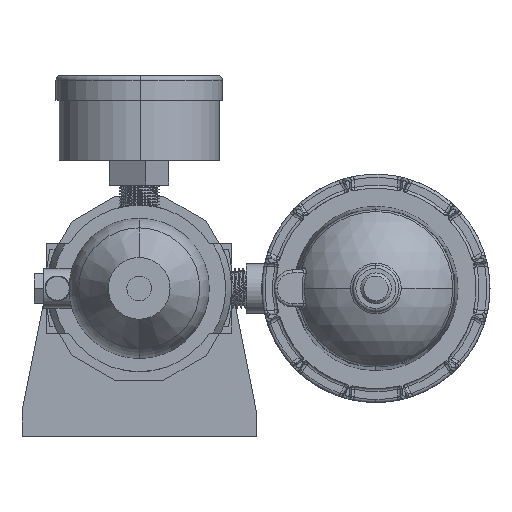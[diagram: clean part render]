
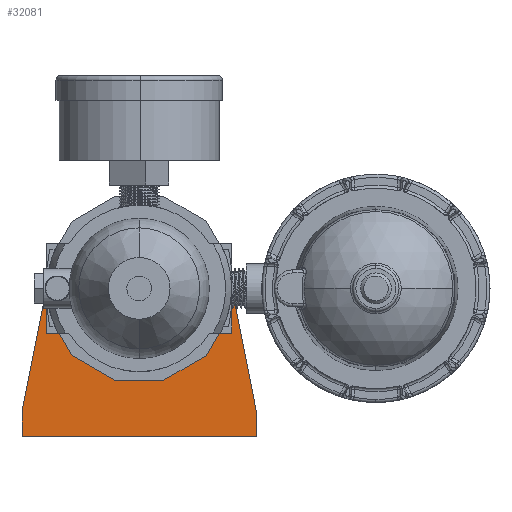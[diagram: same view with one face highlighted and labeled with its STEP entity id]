
A CAD part, front view. The second image highlights one B-rep face of the part: STEP entity #32081.
In plain terms, the highlighted planar face has unit normal (0, -1, 0).
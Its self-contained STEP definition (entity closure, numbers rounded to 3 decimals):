
#522 = PLANE ( 'NONE',  #23144 ) ;
#1128 = VECTOR ( 'NONE', #31506, 1000. ) ;
#1333 = CARTESIAN_POINT ( 'NONE',  ( 38., 0., -48. ) ) ;
#2213 = LINE ( 'NONE', #28363, #5953 ) ;
#4630 = CARTESIAN_POINT ( 'NONE',  ( 0., 0., 0. ) ) ;
#4912 = CARTESIAN_POINT ( 'NONE',  ( 38., 0., -48. ) ) ;
#5953 = VECTOR ( 'NONE', #20603, 1000. ) ;
#6519 = CARTESIAN_POINT ( 'NONE',  ( 0., 0., 0. ) ) ;
#7475 = CARTESIAN_POINT ( 'NONE',  ( -38., 0., -40. ) ) ;
#8577 = CARTESIAN_POINT ( 'NONE',  ( 38., 0., -40. ) ) ;
#8624 = DIRECTION ( 'NONE',  ( 0., 1., 0. ) ) ;
#9825 = VERTEX_POINT ( 'NONE', #25858 ) ;
#10090 = VERTEX_POINT ( 'NONE', #35354 ) ;
#11354 = EDGE_CURVE ( 'NONE', #34883, #9825, #34825, .T. ) ;
#12216 = VERTEX_POINT ( 'NONE', #1333 ) ;
#12287 = DIRECTION ( 'NONE',  ( 0., 0., 1. ) ) ;
#12349 = DIRECTION ( 'NONE',  ( 0., 1., 0. ) ) ;
#12725 = ORIENTED_EDGE ( 'NONE', *, *, #16463, .T. ) ;
#13132 = FACE_BOUND ( 'NONE', #30275, .T. ) ;
#14277 = CARTESIAN_POINT ( 'NONE',  ( 0., 0., 24. ) ) ;
#14396 = CARTESIAN_POINT ( 'NONE',  ( -38., 0., -48. ) ) ;
#14692 = DIRECTION ( 'NONE',  ( 0., 1., 0. ) ) ;
#15847 = DIRECTION ( 'NONE',  ( 0., 0., 1. ) ) ;
#16239 = EDGE_CURVE ( 'NONE', #10090, #17298, #24170, .T. ) ;
#16463 = EDGE_CURVE ( 'NONE', #9825, #34883, #50773, .T. ) ;
#16525 = ORIENTED_EDGE ( 'NONE', *, *, #21800, .F. ) ;
#17298 = VERTEX_POINT ( 'NONE', #8577 ) ;
#17414 = CARTESIAN_POINT ( 'NONE',  ( 0., 0., 0. ) ) ;
#17600 = VECTOR ( 'NONE', #41456, 1000. ) ;
#17765 = VERTEX_POINT ( 'NONE', #7475 ) ;
#19584 = VERTEX_POINT ( 'NONE', #31566 ) ;
#20561 = FACE_OUTER_BOUND ( 'NONE', #22890, .T. ) ;
#20603 = DIRECTION ( 'NONE',  ( 0.194, 0., 0.981 ) ) ;
#21707 = VECTOR ( 'NONE', #39947, 1000. ) ;
#21800 = EDGE_CURVE ( 'NONE', #12216, #41058, #28134, .T. ) ;
#22890 = EDGE_LOOP ( 'NONE', ( #45651, #41203, #16525, #49956, #33315, #29096 ) ) ;
#23144 = AXIS2_PLACEMENT_3D ( 'NONE', #40258, #12349, #15847 ) ;
#24170 = LINE ( 'NONE', #27985, #21707 ) ;
#25858 = CARTESIAN_POINT ( 'NONE',  ( 0., 0., -24. ) ) ;
#26666 = AXIS2_PLACEMENT_3D ( 'NONE', #4630, #8624, #12287 ) ;
#27985 = CARTESIAN_POINT ( 'NONE',  ( 38., 0., -40. ) ) ;
#28134 = LINE ( 'NONE', #14396, #17600 ) ;
#28363 = CARTESIAN_POINT ( 'NONE',  ( -38., 0., -40. ) ) ;
#28382 = LINE ( 'NONE', #4912, #32105 ) ;
#28517 = DIRECTION ( 'NONE',  ( 0., 0., -1. ) ) ;
#28761 = AXIS2_PLACEMENT_3D ( 'NONE', #6519, #14692, #34603 ) ;
#29096 = ORIENTED_EDGE ( 'NONE', *, *, #29952, .F. ) ;
#29518 = DIRECTION ( 'NONE',  ( 0., 1., 0. ) ) ;
#29651 = CIRCLE ( 'NONE', #26666, 29.5 ) ;
#29952 = EDGE_CURVE ( 'NONE', #19584, #10090, #29651, .T. ) ;
#30275 = EDGE_LOOP ( 'NONE', ( #41618, #12725 ) ) ;
#30550 = EDGE_CURVE ( 'NONE', #17298, #12216, #28382, .T. ) ;
#31506 = DIRECTION ( 'NONE',  ( 0., 0., 1. ) ) ;
#31547 = LINE ( 'NONE', #39111, #1128 ) ;
#31566 = CARTESIAN_POINT ( 'NONE',  ( -28.937, 0., 5.734 ) ) ;
#31577 = EDGE_CURVE ( 'NONE', #17765, #19584, #2213, .T. ) ;
#32081 = ADVANCED_FACE ( 'NONE', ( #13132, #20561 ), #522, .F. ) ;
#32105 = VECTOR ( 'NONE', #28517, 1000. ) ;
#33315 = ORIENTED_EDGE ( 'NONE', *, *, #16239, .F. ) ;
#34603 = DIRECTION ( 'NONE',  ( 0., 0., 1. ) ) ;
#34825 = CIRCLE ( 'NONE', #28761, 24. ) ;
#34883 = VERTEX_POINT ( 'NONE', #14277 ) ;
#35168 = CARTESIAN_POINT ( 'NONE',  ( -38., 0., -48. ) ) ;
#35354 = CARTESIAN_POINT ( 'NONE',  ( 28.937, 0., 5.734 ) ) ;
#39111 = CARTESIAN_POINT ( 'NONE',  ( -38., 0., -48. ) ) ;
#39947 = DIRECTION ( 'NONE',  ( 0.194, 0., -0.981 ) ) ;
#40258 = CARTESIAN_POINT ( 'NONE',  ( 0., 0., 0. ) ) ;
#41058 = VERTEX_POINT ( 'NONE', #35168 ) ;
#41203 = ORIENTED_EDGE ( 'NONE', *, *, #42705, .F. ) ;
#41456 = DIRECTION ( 'NONE',  ( -1., 0., 0. ) ) ;
#41618 = ORIENTED_EDGE ( 'NONE', *, *, #11354, .T. ) ;
#42705 = EDGE_CURVE ( 'NONE', #41058, #17765, #31547, .T. ) ;
#45144 = DIRECTION ( 'NONE',  ( 0., 0., 1. ) ) ;
#45651 = ORIENTED_EDGE ( 'NONE', *, *, #31577, .F. ) ;
#45819 = AXIS2_PLACEMENT_3D ( 'NONE', #17414, #29518, #45144 ) ;
#49956 = ORIENTED_EDGE ( 'NONE', *, *, #30550, .F. ) ;
#50773 = CIRCLE ( 'NONE', #45819, 24. ) ;
